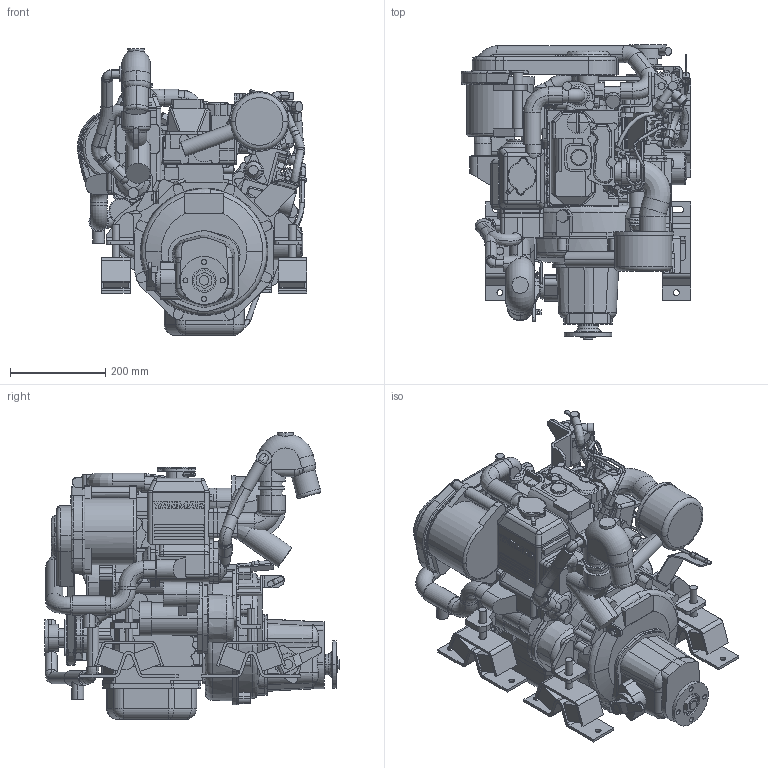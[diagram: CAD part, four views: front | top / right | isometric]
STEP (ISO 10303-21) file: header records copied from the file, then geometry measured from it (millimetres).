
FILE_DESCRIPTION(('CoCreate Modeling STEP Export'),'2;1');
FILE_NAME('2YM15_KM2P-1.stp','2013-04-11T15:13:28',(''),(''),'CoCreate Modeling STEP processor for AP214 (Solid Model)','CoCreate Modeling 16.50A 01-Dec-2009 (C) Parametric Technology GmbH','');
FILE_SCHEMA(('AUTOMOTIVE_DESIGN { 1 0 10303 214 1 1 1 1 }'));
Length unit declared in the file: millimetre
Products named in the file (60): C.O.G._P1; C.O.G._P2; C.O.G._P3; C.O.G._P4; C.O.G._P6; C.O.G._P5; Center_of_gravity; 2YM15_001; 2YM15_002; 2YM15_003; 2YM15_004; 2YM15_005; 2YM15_011; 2YM15_010; 2YM15_013; 2YM15_007; 2YM15_012; 2YM15_006; 2YM15_014; 2YM15_008; 2YM15_009; 2YM15_020; 2YM15_021; 2YM15_019; 2YM15_018; 2YM15_017; 2YM15_016; 2YM15_015; 2YM15_024; 2YM15_022; 2YM15_023; 2YM15_029; 2YM15_028; 2YM15_027; 2YM15_030; 2YM15_026; 2YM15_035; 2YM15_033; 2YM15_039; 2YM15_044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
Assembly tree (59 placements, depth 4):
  2YM15_KM2P-1
    KM2P-1_Gearbox-YM
      KM2P-1_YM_001
      KM2P-1_YM_002
    2YM15_Engine_Gearbox
      Mixing-elbow
        2YM15_type-1_001
        2YM15_type-2_001
      Base
        2YM15_025
        2YM15_032
        2YM15_038
        2YM15_031
        2YM15_042
        2YM15_040
        2YM15_037
        2YM15_036
        2YM15_043
        2YM15_034
        2YM15_041
        2YM15_044
        2YM15_039
        2YM15_033
        2YM15_035
        2YM15_026
        2YM15_030
        2YM15_027
        2YM15_028
        2YM15_029
        2YM15_023
        2YM15_022
        2YM15_024
        2YM15_015
        2YM15_016
        2YM15_017
        2YM15_018
        2YM15_019
        2YM15_021
        2YM15_020
        2YM15_009
        2YM15_008
        2YM15_014
        2YM15_006
        2YM15_012
        2YM15_007
        2YM15_013
        2YM15_010
        2YM15_011
        2YM15_005
        2YM15_004
        2YM15_003
        2YM15_002
        2YM15_001
    Center_of_gravity
      C.O.G._P5
      C.O.G._P6
      C.O.G._P4
      C.O.G._P3
      C.O.G._P2
      C.O.G._P1
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Bounding box: 480.64 x 616.5 x 600.8 mm (x, y, z)
Volume: 39892736.6 mm3; surface area: 3481903.2 mm2
Topology: 54 solids, 54 shells, 3929 faces, 10674 edges, 6945 vertices
Faces by surface type: plane 1729, cylinder 1709, torus 149, revolution 131, cone 120, bspline 49, sphere 40, extrusion 2
Entity records: 124510 total; most frequent: CARTESIAN_POINT 30579, ORIENTED_EDGE 21276, DIRECTION 17437, EDGE_CURVE 10638, VERTEX_POINT 6945, AXIS2_PLACEMENT_3D 5869, VECTOR 5588, LINE 5586
